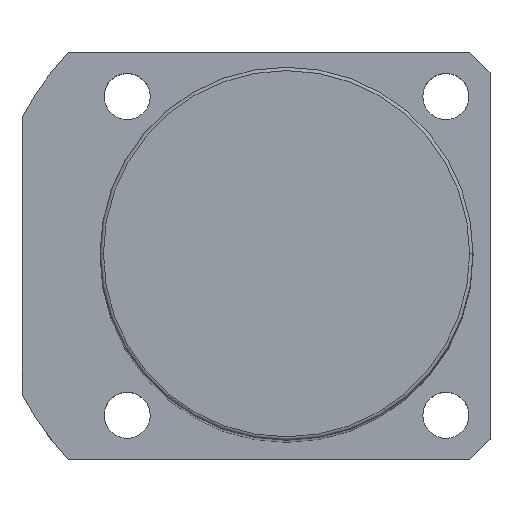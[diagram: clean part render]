
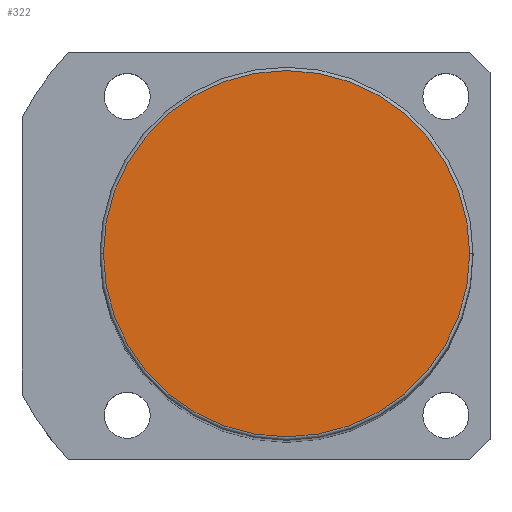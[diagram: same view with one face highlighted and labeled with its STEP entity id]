
A CAD part, top view. The second image highlights one B-rep face of the part: STEP entity #322.
In plain terms, the highlighted planar face has unit normal (0, 0, 1).
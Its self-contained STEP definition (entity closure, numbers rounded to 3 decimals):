
#78 = ORIENTED_EDGE ( 'NONE', *, *, #421, .T. ) ;
#193 = DIRECTION ( 'NONE',  ( 0., 0., 1. ) ) ;
#203 = PLANE ( 'NONE',  #1492 ) ;
#322 = ADVANCED_FACE ( 'NONE', ( #1068 ), #203, .T. ) ;
#364 = AXIS2_PLACEMENT_3D ( 'NONE', #1589, #193, #437 ) ;
#381 = VERTEX_POINT ( 'NONE', #777 ) ;
#421 = EDGE_CURVE ( 'NONE', #381, #538, #1318, .T. ) ;
#437 = DIRECTION ( 'NONE',  ( 1., 0., 0. ) ) ;
#508 = DIRECTION ( 'NONE',  ( 0., 0., 1. ) ) ;
#538 = VERTEX_POINT ( 'NONE', #1394 ) ;
#627 = CARTESIAN_POINT ( 'NONE',  ( 0., 0., 191. ) ) ;
#646 = CIRCLE ( 'NONE', #364, 27. ) ;
#688 = ORIENTED_EDGE ( 'NONE', *, *, #1489, .T. ) ;
#777 = CARTESIAN_POINT ( 'NONE',  ( -27., 0., 191. ) ) ;
#919 = DIRECTION ( 'NONE',  ( 1., 0., 0. ) ) ;
#1068 = FACE_OUTER_BOUND ( 'NONE', #1579, .T. ) ;
#1149 = CARTESIAN_POINT ( 'NONE',  ( 0., 0., 191. ) ) ;
#1164 = DIRECTION ( 'NONE',  ( 1., 0., 0. ) ) ;
#1318 = CIRCLE ( 'NONE', #1670, 27. ) ;
#1321 = DIRECTION ( 'NONE',  ( 0., 0., 1. ) ) ;
#1394 = CARTESIAN_POINT ( 'NONE',  ( 27., 0., 191. ) ) ;
#1489 = EDGE_CURVE ( 'NONE', #538, #381, #646, .T. ) ;
#1492 = AXIS2_PLACEMENT_3D ( 'NONE', #1149, #1321, #1164 ) ;
#1579 = EDGE_LOOP ( 'NONE', ( #688, #78 ) ) ;
#1589 = CARTESIAN_POINT ( 'NONE',  ( 0., 0., 191. ) ) ;
#1670 = AXIS2_PLACEMENT_3D ( 'NONE', #627, #508, #919 ) ;
